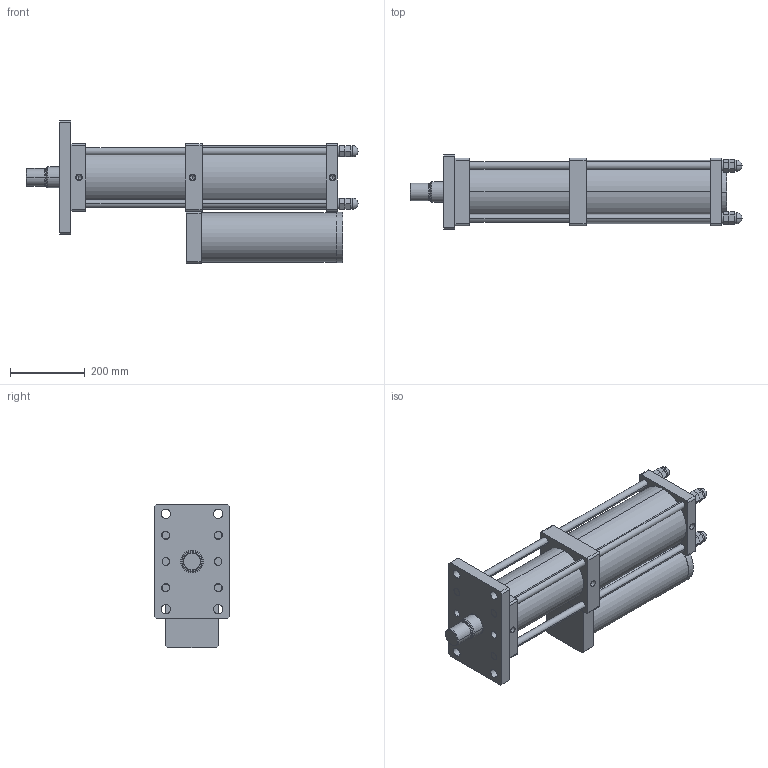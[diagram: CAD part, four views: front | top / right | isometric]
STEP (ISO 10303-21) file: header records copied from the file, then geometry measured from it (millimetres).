
FILE_DESCRIPTION (( 'STEP AP203' ), '1' );
FILE_NAME ('CPT-125-200-15-20T.STEP', '2016-03-12T02:03:52', ( 'WIN' ), ( '' ), 'SwSTEP 2.0', 'SolidWorks 2014', '' );
FILE_SCHEMA (( 'CONFIG_CONTROL_DESIGN' ));
Length unit declared in the file: millimetre
Products named in the file (1): CPT-125-200-15-20T
Bounding box: 886 x 200 x 382.5 mm (x, y, z)
Volume: 19951152.8 mm3; surface area: 1391530.3 mm2
Topology: 17 solids, 17 shells, 318 faces, 726 edges, 454 vertices
Faces by surface type: plane 154, cylinder 122, cone 30, sphere 8, torus 4
Entity records: 8889 total; most frequent: DIRECTION 1638, CARTESIAN_POINT 1467, ORIENTED_EDGE 1404, EDGE_CURVE 702, AXIS2_PLACEMENT_3D 617, VERTEX_POINT 446, LINE 404, VECTOR 404
